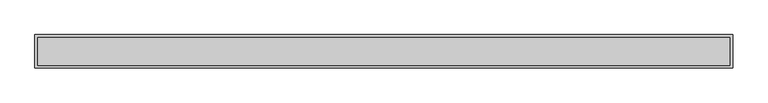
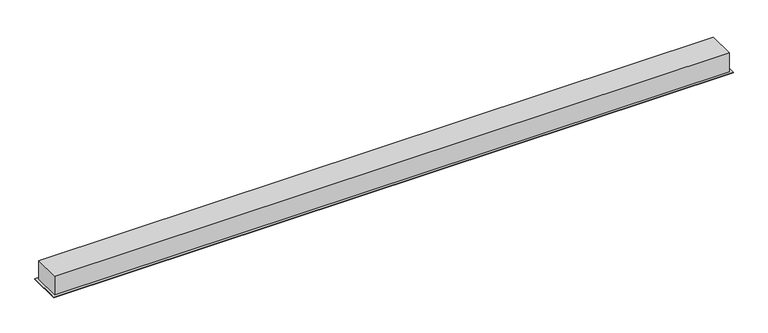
"""IFC4 building model written with IfcOpenShell, lengths in millimetres: light fixture geometry, GENILED_Светильник светодиодный_Trade Linear Standart Встраиваемый : Встраиваемый Trade Linear Standart 1962x65x60 120Вт 90Ra Deep Опал Черный."""

from ifc_helpers import new_model, si_unit, origin, place, context, project, spatial, faceted_brep, source, transform, mapped, element, save


def light_fixture_3c8a666a(model_context):
    return source(origin(), model_context, "Body", "Brep", [
        faceted_brep([(990.0, 40.0, 60.0), (-990.0, 40.0, 60.0), (-990.0, -40.0, 60.0), (990.0, -40.0, 60.0), (997.5, 47.5, 0.0), (997.5, -47.5, 0.0), (-997.5, -47.5, 0.0), (-997.5, 47.5, 0.0), (990.0, 40.0, 2.0), (-990.0, 40.0, 2.0), (-990.0, 32.5, 2.0), (-990.0, -32.5, 2.0), (-990.0, -40.0, 2.0), (990.0, -40.0, 2.0), (990.0, -32.5, 2.0), (990.0, 32.5, 2.0), (997.5, 47.5, 2.0), (-997.5, 47.5, 2.0), (-997.5, -47.5, 2.0), (997.5, -47.5, 2.0)], [[[0, 1, 2, 3]], [[4, 5, 6, 7]], [[1, 0, 8, 9]], [[2, 1, 9, 10, 11, 12]], [[3, 2, 12, 13]], [[0, 3, 13, 14, 15, 8]], [[16, 17, 18, 19], [9, 8, 15, 14, 13, 12, 11, 10]], [[17, 16, 4, 7]], [[18, 17, 7, 6]], [[19, 18, 6, 5]], [[16, 19, 5, 4]]]),
    ])


if __name__ == "__main__":
    model = new_model("IFC4")
    model_context = context("Model", 3, world=origin())
    ifc_project = project(units=[si_unit("LENGTHUNIT", "METRE", prefix="MILLI")], contexts=[model_context])
    site = spatial("IfcSite", under=ifc_project)
    building = spatial("IfcBuilding", under=site)
    placement = place(None, origin())
    light_fixture_shape = light_fixture_3c8a666a(model_context)
    element("IfcLightFixture", 1, ObjectType="GENILED_Светильник светодиодный_Trade Linear Standart Встраиваемый : Встраиваемый Trade Linear Standart 1962x65x60 120Вт 90Ra Deep Опал Черный", at=placement, inside=building, context=model_context, shape_type="MappedRepresentation", body=[
        mapped(light_fixture_shape, transform((0.0, 0.0, 0.0), x_axis=(1.0, 0.0, 0.0), y_axis=(0.0, 1.0, 0.0), z_axis=(0.0, 0.0, 1.0))),
    ])
    save(model, "model.ifc")
